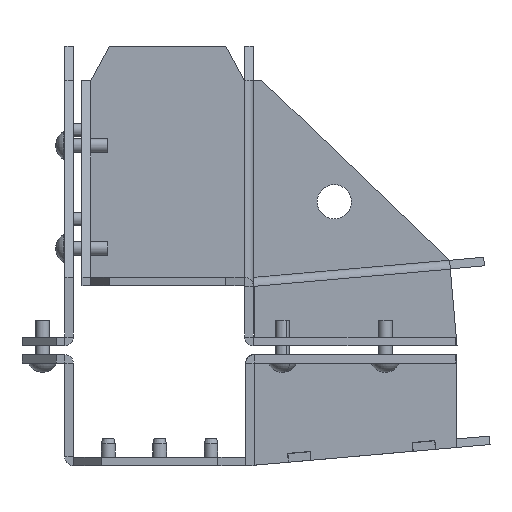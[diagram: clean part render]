
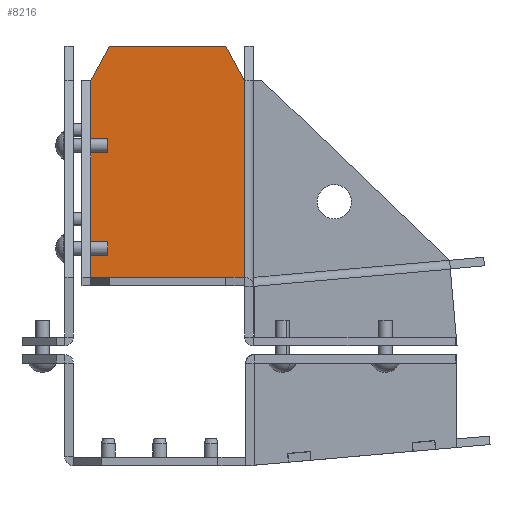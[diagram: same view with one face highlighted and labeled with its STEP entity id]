
A CAD part, left-side view. The second image highlights one B-rep face of the part: STEP entity #8216.
In plain terms, the highlighted planar face has unit normal (-1, 0, 0).
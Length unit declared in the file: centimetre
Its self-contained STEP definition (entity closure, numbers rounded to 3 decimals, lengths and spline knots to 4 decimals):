
#17 = LINE ( 'NONE', #10126, #8862 ) ;
#79 = LINE ( 'NONE', #6619, #11176 ) ;
#853 = DIRECTION ( 'NONE',  ( 1., 0., 0. ) ) ;
#1131 = DIRECTION ( 'NONE',  ( 0., 1., 0. ) ) ;
#1149 = VECTOR ( 'NONE', #6667, 100. ) ;
#1224 = CARTESIAN_POINT ( 'NONE',  ( 677.1612, 4.5075, 144. ) ) ;
#1386 = CARTESIAN_POINT ( 'NONE',  ( 677.1612, -4.4525, 156. ) ) ;
#1425 = LINE ( 'NONE', #19505, #2761 ) ;
#1840 = VERTEX_POINT ( 'NONE', #19416 ) ;
#1990 = EDGE_CURVE ( 'NONE', #16979, #12183, #13373, .T. ) ;
#2085 = CARTESIAN_POINT ( 'NONE',  ( 677.1612, -0.7275, 151.0978 ) ) ;
#2384 = VECTOR ( 'NONE', #21285, 100. ) ;
#2474 = CARTESIAN_POINT ( 'NONE',  ( 677.1612, 0.5025, 144.515 ) ) ;
#2650 = LINE ( 'NONE', #14275, #20965 ) ;
#2761 = VECTOR ( 'NONE', #6249, 100. ) ;
#3616 = ORIENTED_EDGE ( 'NONE', *, *, #16001, .T. ) ;
#3824 = EDGE_CURVE ( 'NONE', #9632, #1840, #79, .T. ) ;
#4169 = FACE_OUTER_BOUND ( 'NONE', #4467, .T. ) ;
#4467 = EDGE_LOOP ( 'NONE', ( #3616, #17685, #8784, #7261, #20501, #18780, #11616, #12528, #19936, #5990 ) ) ;
#5954 = LINE ( 'NONE', #15893, #18835 ) ;
#5990 = ORIENTED_EDGE ( 'NONE', *, *, #1990, .T. ) ;
#6028 = VECTOR ( 'NONE', #7009, 100. ) ;
#6249 = DIRECTION ( 'NONE',  ( 0., 0., 1. ) ) ;
#6401 = DIRECTION ( 'NONE',  ( 0., 1., 0. ) ) ;
#6619 = CARTESIAN_POINT ( 'NONE',  ( 677.1612, -4.4525, 156. ) ) ;
#6667 = DIRECTION ( 'NONE',  ( 0., 0., 1. ) ) ;
#6882 = VERTEX_POINT ( 'NONE', #8361 ) ;
#7009 = DIRECTION ( 'NONE',  ( 0., 0., -1. ) ) ;
#7261 = ORIENTED_EDGE ( 'NONE', *, *, #17016, .F. ) ;
#7504 = CARTESIAN_POINT ( 'NONE',  ( 677.1612, -4.9725, 151.0978 ) ) ;
#8036 = CARTESIAN_POINT ( 'NONE',  ( 677.1612, 3.4275, 158. ) ) ;
#8216 = ADVANCED_FACE ( 'NONE', ( #4169 ), #12253, .F. ) ;
#8361 = CARTESIAN_POINT ( 'NONE',  ( 677.1612, -4.4525, 144. ) ) ;
#8713 = VERTEX_POINT ( 'NONE', #1224 ) ;
#8784 = ORIENTED_EDGE ( 'NONE', *, *, #19430, .F. ) ;
#8862 = VECTOR ( 'NONE', #15189, 100. ) ;
#9373 = CARTESIAN_POINT ( 'NONE',  ( 677.1612, -0.7275, 144. ) ) ;
#9632 = VERTEX_POINT ( 'NONE', #1386 ) ;
#10126 = CARTESIAN_POINT ( 'NONE',  ( 677.1612, -4.4525, 144. ) ) ;
#10616 = VECTOR ( 'NONE', #6401, 100. ) ;
#10819 = CARTESIAN_POINT ( 'NONE',  ( 677.1612, 3.4275, 158. ) ) ;
#11176 = VECTOR ( 'NONE', #17861, 100. ) ;
#11232 = VERTEX_POINT ( 'NONE', #17912 ) ;
#11479 = LINE ( 'NONE', #16659, #10616 ) ;
#11616 = ORIENTED_EDGE ( 'NONE', *, *, #16104, .T. ) ;
#11731 = EDGE_CURVE ( 'NONE', #11232, #17277, #13281, .T. ) ;
#11795 = CARTESIAN_POINT ( 'NONE',  ( 677.1612, -4.4725, 144. ) ) ;
#12183 = VERTEX_POINT ( 'NONE', #2474 ) ;
#12253 = PLANE ( 'NONE',  #12328 ) ;
#12328 = AXIS2_PLACEMENT_3D ( 'NONE', #7504, #853, #12574 ) ;
#12454 = DIRECTION ( 'NONE',  ( 0., -1., 0. ) ) ;
#12528 = ORIENTED_EDGE ( 'NONE', *, *, #20822, .F. ) ;
#12574 = DIRECTION ( 'NONE',  ( 0., -1., 0. ) ) ;
#13281 = LINE ( 'NONE', #2085, #6028 ) ;
#13373 = LINE ( 'NONE', #13577, #1149 ) ;
#13418 = LINE ( 'NONE', #11795, #19851 ) ;
#13577 = CARTESIAN_POINT ( 'NONE',  ( 677.1612, 0.5025, 151.0978 ) ) ;
#14275 = CARTESIAN_POINT ( 'NONE',  ( 677.1612, -4.9725, 144.515 ) ) ;
#14426 = EDGE_CURVE ( 'NONE', #16979, #8713, #13418, .T. ) ;
#14630 = EDGE_CURVE ( 'NONE', #1840, #19586, #5954, .T. ) ;
#14705 = LINE ( 'NONE', #8036, #2384 ) ;
#14763 = CARTESIAN_POINT ( 'NONE',  ( 677.1612, 4.5075, 156. ) ) ;
#15189 = DIRECTION ( 'NONE',  ( 0., 0., -1. ) ) ;
#15893 = CARTESIAN_POINT ( 'NONE',  ( 677.1612, -3.3725, 158. ) ) ;
#16001 = EDGE_CURVE ( 'NONE', #12183, #11232, #2650, .T. ) ;
#16104 = EDGE_CURVE ( 'NONE', #19586, #20872, #14705, .T. ) ;
#16659 = CARTESIAN_POINT ( 'NONE',  ( 677.1612, -4.4725, 144. ) ) ;
#16979 = VERTEX_POINT ( 'NONE', #18212 ) ;
#17016 = EDGE_CURVE ( 'NONE', #9632, #6882, #17, .T. ) ;
#17277 = VERTEX_POINT ( 'NONE', #9373 ) ;
#17685 = ORIENTED_EDGE ( 'NONE', *, *, #11731, .T. ) ;
#17861 = DIRECTION ( 'NONE',  ( 0., 0.475, 0.88 ) ) ;
#17912 = CARTESIAN_POINT ( 'NONE',  ( 677.1612, -0.7275, 144.515 ) ) ;
#18212 = CARTESIAN_POINT ( 'NONE',  ( 677.1612, 0.5025, 144. ) ) ;
#18780 = ORIENTED_EDGE ( 'NONE', *, *, #14630, .T. ) ;
#18835 = VECTOR ( 'NONE', #1131, 100. ) ;
#19416 = CARTESIAN_POINT ( 'NONE',  ( 677.1612, -3.3725, 158. ) ) ;
#19430 = EDGE_CURVE ( 'NONE', #6882, #17277, #11479, .T. ) ;
#19505 = CARTESIAN_POINT ( 'NONE',  ( 677.1612, 4.5075, 144. ) ) ;
#19586 = VERTEX_POINT ( 'NONE', #10819 ) ;
#19851 = VECTOR ( 'NONE', #19988, 100. ) ;
#19936 = ORIENTED_EDGE ( 'NONE', *, *, #14426, .F. ) ;
#19988 = DIRECTION ( 'NONE',  ( 0., 1., 0. ) ) ;
#20501 = ORIENTED_EDGE ( 'NONE', *, *, #3824, .T. ) ;
#20822 = EDGE_CURVE ( 'NONE', #8713, #20872, #1425, .T. ) ;
#20872 = VERTEX_POINT ( 'NONE', #14763 ) ;
#20965 = VECTOR ( 'NONE', #12454, 100. ) ;
#21285 = DIRECTION ( 'NONE',  ( 0., 0.475, -0.88 ) ) ;
